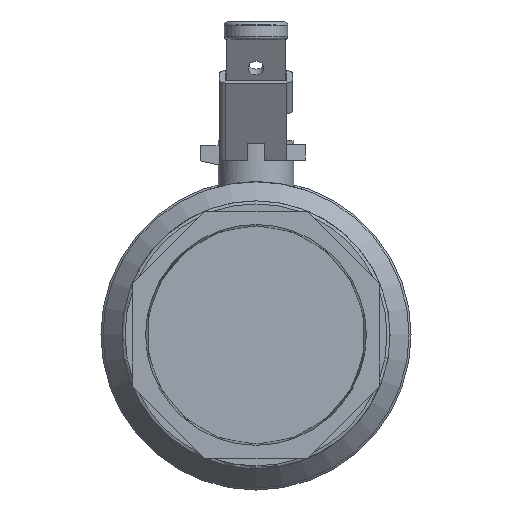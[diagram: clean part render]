
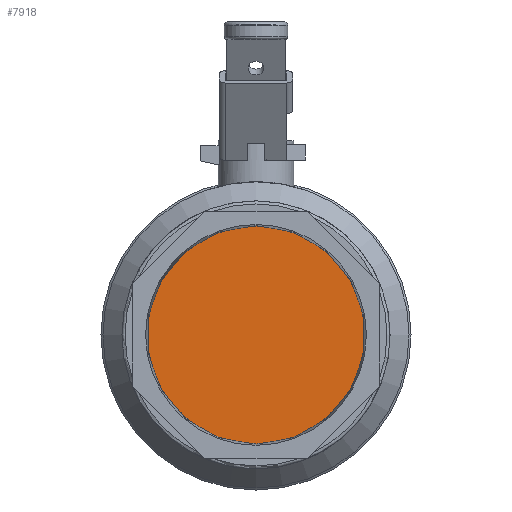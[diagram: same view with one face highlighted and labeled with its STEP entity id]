
A CAD part, left-side view. The second image highlights one B-rep face of the part: STEP entity #7918.
In plain terms, the highlighted planar face has unit normal (-1, 0, 0).
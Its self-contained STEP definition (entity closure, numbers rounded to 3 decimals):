
#7841 = CONICAL_SURFACE('',#7842,55.282,0.031);
#7842 = AXIS2_PLACEMENT_3D('',#7843,#7844,#7845);
#7843 = CARTESIAN_POINT('',(13.894,0.,2.455));
#7844 = DIRECTION('',(-1.,0.,0.));
#7845 = DIRECTION('',(0.,0.,1.));
#7866 = VERTEX_POINT('',#7867);
#7867 = CARTESIAN_POINT('',(27.788,0.,57.303));
#7887 = EDGE_CURVE('',#7866,#7866,#7888,.T.);
#7888 = SURFACE_CURVE('',#7889,(#7894,#7901),.PCURVE_S1.);
#7889 = CIRCLE('',#7890,54.848);
#7890 = AXIS2_PLACEMENT_3D('',#7891,#7892,#7893);
#7891 = CARTESIAN_POINT('',(27.788,0.,2.455));
#7892 = DIRECTION('',(-1.,0.,0.));
#7893 = DIRECTION('',(0.,0.,1.));
#7894 = PCURVE('',#7841,#7895);
#7895 = DEFINITIONAL_REPRESENTATION('',(#7896),#7900);
#7896 = LINE('',#7897,#7898);
#7897 = CARTESIAN_POINT('',(0.,-13.894));
#7898 = VECTOR('',#7899,1.);
#7899 = DIRECTION('',(1.,0.));
#7900 = ( GEOMETRIC_REPRESENTATION_CONTEXT(2) 
PARAMETRIC_REPRESENTATION_CONTEXT() REPRESENTATION_CONTEXT('2D SPACE',''
  ) );
#7901 = PCURVE('',#7902,#7907);
#7902 = PLANE('',#7903);
#7903 = AXIS2_PLACEMENT_3D('',#7904,#7905,#7906);
#7904 = CARTESIAN_POINT('',(27.788,0.,29.879));
#7905 = DIRECTION('',(1.,0.,0.));
#7906 = DIRECTION('',(0.,0.,-1.));
#7907 = DEFINITIONAL_REPRESENTATION('',(#7908),#7916);
#7908 = ( BOUNDED_CURVE() B_SPLINE_CURVE(2,(#7909,#7910,#7911,#7912,
#7913,#7914,#7915),.UNSPECIFIED.,.T.,.F.) B_SPLINE_CURVE_WITH_KNOTS((1,2
    ,2,2,2,1),(-2.094,0.,2.094,4.189,
6.283,8.378),.UNSPECIFIED.) CURVE() 
GEOMETRIC_REPRESENTATION_ITEM() RATIONAL_B_SPLINE_CURVE((1.,0.5,1.,0.5,
1.,0.5,1.)) REPRESENTATION_ITEM('') );
#7909 = CARTESIAN_POINT('',(-27.424,0.));
#7910 = CARTESIAN_POINT('',(-27.424,95.));
#7911 = CARTESIAN_POINT('',(54.848,47.5));
#7912 = CARTESIAN_POINT('',(137.12,0.));
#7913 = CARTESIAN_POINT('',(54.848,-47.5));
#7914 = CARTESIAN_POINT('',(-27.424,-95.));
#7915 = CARTESIAN_POINT('',(-27.424,0.));
#7916 = ( GEOMETRIC_REPRESENTATION_CONTEXT(2) 
PARAMETRIC_REPRESENTATION_CONTEXT() REPRESENTATION_CONTEXT('2D SPACE',''
  ) );
#7918 = ADVANCED_FACE('',(#7919),#7902,.F.);
#7919 = FACE_BOUND('',#7920,.T.);
#7920 = EDGE_LOOP('',(#7921));
#7921 = ORIENTED_EDGE('',*,*,#7887,.T.);
